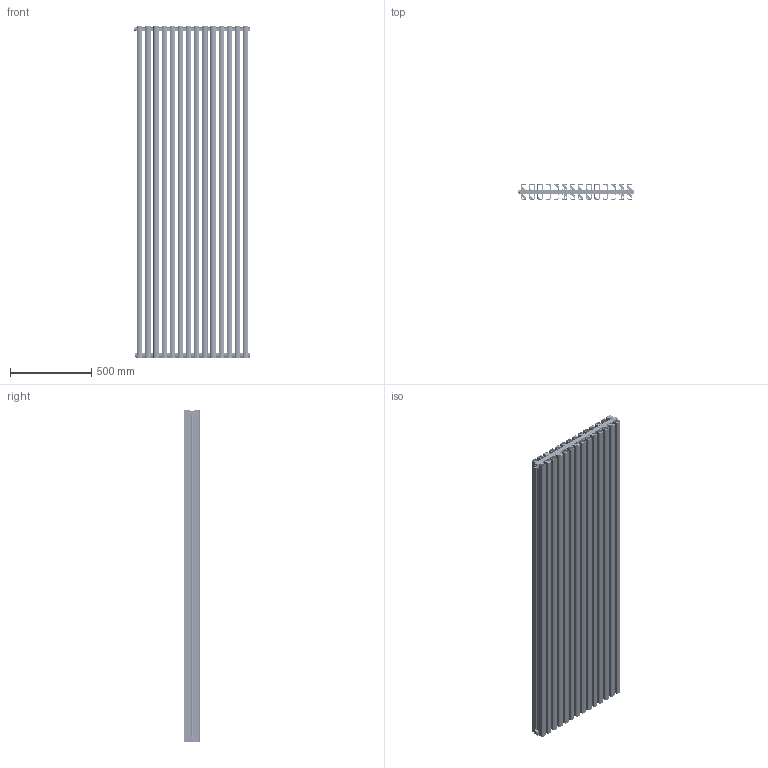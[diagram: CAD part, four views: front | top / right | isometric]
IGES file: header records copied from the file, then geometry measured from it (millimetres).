
Start section: SolidWorks IGES file using analytic representation for surfaces
Global section: file name: S:\RicercaSviluppo\01_DISEGNI\2_DISEGNI\02_ELEMENTI\39_TONALE\39_99_RICHIESTE CLIENTI\39_99_DRL\22-07-24\TONALE 2000_14.IGS; native system: SolidWorks 2024; preprocessor: SolidWorks 2024; author: massimo; date: 240722.113339; units: millimetre
Bounding box: 716.3 x 95 x 2039.3 mm (x, y, z)
Surface area: 20592282.2 mm2 (no closed solid volume)
Topology: 0 solids, 0 shells, 8202 faces, 99689 edges, 99521 vertices
Faces by surface type: revolution 4316, bspline 3886
